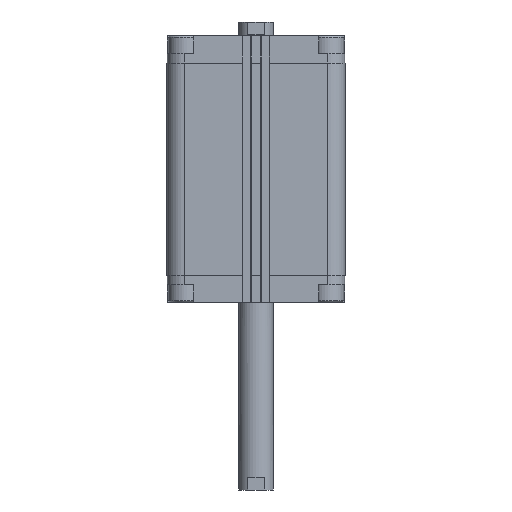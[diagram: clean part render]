
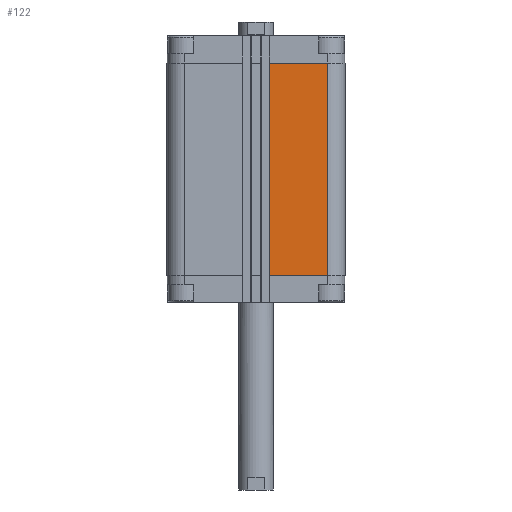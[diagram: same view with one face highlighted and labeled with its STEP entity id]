
A CAD part, front view. The second image highlights one B-rep face of the part: STEP entity #122.
In plain terms, the highlighted planar face has unit normal (0, -1, 0).
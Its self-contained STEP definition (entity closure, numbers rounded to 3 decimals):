
#122 = ADVANCED_FACE ( 'NONE', ( #16449 ), #8287, .T. ) ;
#267 = ORIENTED_EDGE ( 'NONE', *, *, #17648, .F. ) ;
#545 = CARTESIAN_POINT ( 'NONE',  ( 9.95, -64., -172. ) ) ;
#595 = VERTEX_POINT ( 'NONE', #20348 ) ;
#782 = EDGE_CURVE ( 'NONE', #595, #18144, #6593, .T. ) ;
#831 = CARTESIAN_POINT ( 'NONE',  ( 9.95, -64., -172. ) ) ;
#2615 = DIRECTION ( 'NONE',  ( 1., 0., 0. ) ) ;
#2849 = ORIENTED_EDGE ( 'NONE', *, *, #13206, .T. ) ;
#3271 = VERTEX_POINT ( 'NONE', #5124 ) ;
#4977 = VECTOR ( 'NONE', #20590, 1000. ) ;
#5124 = CARTESIAN_POINT ( 'NONE',  ( 9.95, -64., -19.5 ) ) ;
#6593 = LINE ( 'NONE', #19897, #7107 ) ;
#6649 = LINE ( 'NONE', #13182, #17515 ) ;
#6968 = ORIENTED_EDGE ( 'NONE', *, *, #782, .T. ) ;
#7107 = VECTOR ( 'NONE', #8293, 1000. ) ;
#7108 = DIRECTION ( 'NONE',  ( -1., 0., 0. ) ) ;
#7209 = ORIENTED_EDGE ( 'NONE', *, *, #12694, .F. ) ;
#7544 = VERTEX_POINT ( 'NONE', #15346 ) ;
#7999 = AXIS2_PLACEMENT_3D ( 'NONE', #545, #10329, #7108 ) ;
#8287 = PLANE ( 'NONE',  #7999 ) ;
#8293 = DIRECTION ( 'NONE',  ( 0., 0., 1. ) ) ;
#10329 = DIRECTION ( 'NONE',  ( 0., -1., 0. ) ) ;
#10782 = LINE ( 'NONE', #17328, #18188 ) ;
#11408 = EDGE_LOOP ( 'NONE', ( #7209, #267, #2849, #6968 ) ) ;
#12694 = EDGE_CURVE ( 'NONE', #3271, #18144, #10782, .T. ) ;
#13182 = CARTESIAN_POINT ( 'NONE',  ( 9.95, -64., -172. ) ) ;
#13206 = EDGE_CURVE ( 'NONE', #7544, #595, #6649, .T. ) ;
#15346 = CARTESIAN_POINT ( 'NONE',  ( 9.95, -64., -172. ) ) ;
#16157 = CARTESIAN_POINT ( 'NONE',  ( 51.5, -64., -19.5 ) ) ;
#16449 = FACE_OUTER_BOUND ( 'NONE', #11408, .T. ) ;
#17328 = CARTESIAN_POINT ( 'NONE',  ( 9.95, -64., -19.5 ) ) ;
#17515 = VECTOR ( 'NONE', #19743, 1000. ) ;
#17648 = EDGE_CURVE ( 'NONE', #7544, #3271, #20163, .T. ) ;
#18144 = VERTEX_POINT ( 'NONE', #16157 ) ;
#18188 = VECTOR ( 'NONE', #2615, 1000. ) ;
#19743 = DIRECTION ( 'NONE',  ( 1., 0., 0. ) ) ;
#19897 = CARTESIAN_POINT ( 'NONE',  ( 51.5, -64., -172. ) ) ;
#20163 = LINE ( 'NONE', #831, #4977 ) ;
#20348 = CARTESIAN_POINT ( 'NONE',  ( 51.5, -64., -172. ) ) ;
#20590 = DIRECTION ( 'NONE',  ( 0., 0., 1. ) ) ;
